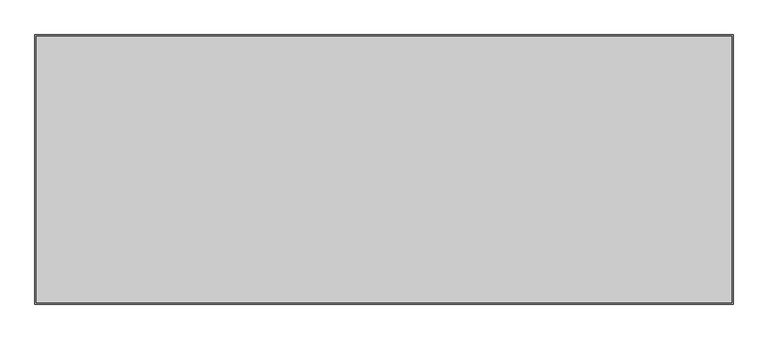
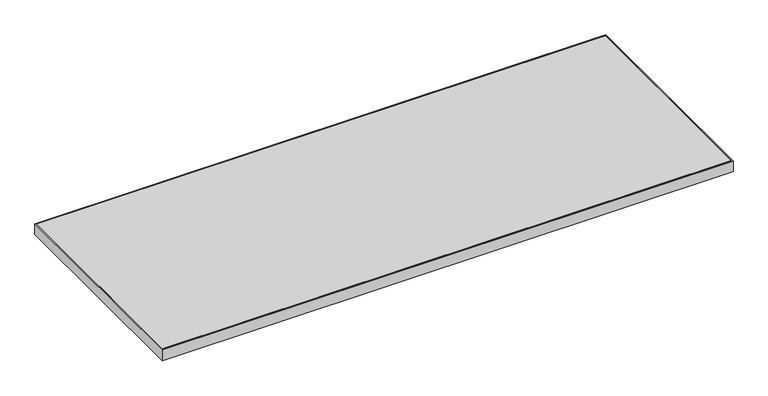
"""IFC4 building model written with IfcOpenShell, lengths in millimetres: furniture geometry, Steelcase - Universal Storage - Square Edge Top - Flush Front - Laminate : Common Top - 24D x 60W."""

from ifc_helpers import new_model, si_unit, frame, origin, place, context, project, spatial, polyline, outline, extrude, source, transform, mapped, element, save


def furniture_18deb04d(model_context):
    return source(origin(), model_context, "Body", "SweptSolid", [
        extrude(outline(polyline([(1520.9520001, -3.0479999), (1520.9520001, -584.4540001), (3.0479999, -584.4540001), (3.0479999, -3.0479999), (1520.9520001, -3.0479999)])), frame((0.0, 0.0, 680.72), z_axis=(0.0, 0.0, 1.0), x_axis=(1.0, 0.0, 0.0)), (0.0, 0.0, 1.0), 30.48),
        extrude(outline(polyline([(1524.0, 0.0), (1524.0, -587.502), (0.0, -587.502), (0.0, 0.0), (1524.0, 0.0)]), holes=[polyline([(1520.9520001, -3.0479999), (3.0479999, -3.0479999), (3.0479999, -584.4540001), (1520.9520001, -584.4540001), (1520.9520001, -3.0479999)])]), frame((0.0, 0.0, 680.72), z_axis=(0.0, 0.0, 1.0), x_axis=(1.0, 0.0, 0.0)), (0.0, 0.0, 1.0), 30.48),
    ])


if __name__ == "__main__":
    model = new_model("IFC4")
    model_context = context("Model", 3, world=origin())
    ifc_project = project(units=[si_unit("LENGTHUNIT", "METRE", prefix="MILLI")], contexts=[model_context])
    site = spatial("IfcSite", under=ifc_project)
    building = spatial("IfcBuilding", under=site)
    placement = place(None, origin())
    furniture_shape = furniture_18deb04d(model_context)
    element("IfcFurniture", 1, ObjectType="Steelcase - Universal Storage - Square Edge Top - Flush Front - Laminate : Common Top - 24D x 60W", at=placement, inside=building, context=model_context, shape_type="MappedRepresentation", body=[
        mapped(furniture_shape, transform((0.0, 0.0, 0.0), x_axis=(1.0, 0.0, 0.0), y_axis=(0.0, 1.0, 0.0), z_axis=(0.0, 0.0, 1.0))),
    ])
    save(model, "model.ifc")
